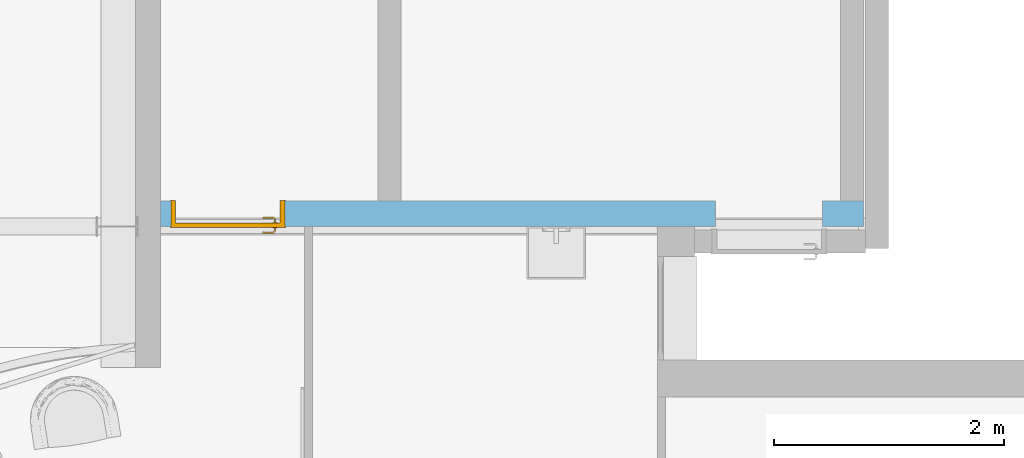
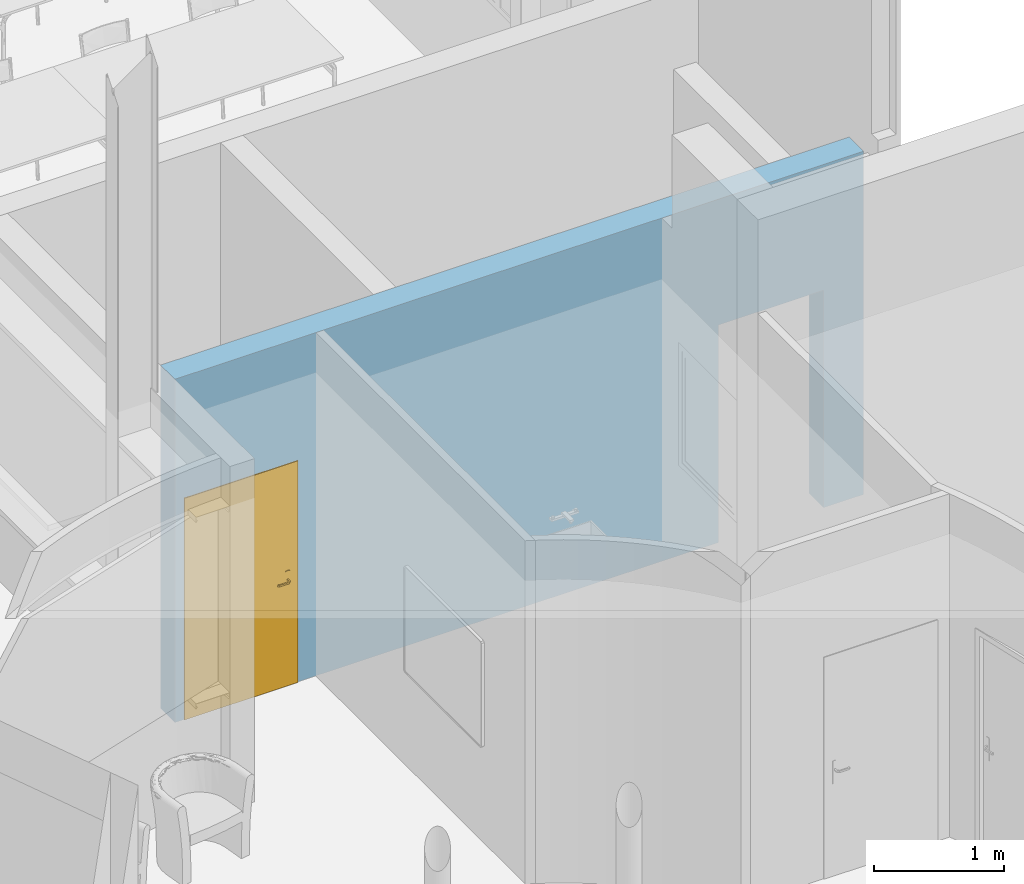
# One storey, part 89 of 137: 1 door, 2 openings, plus 1 element that does not belong to this part.
"""IFC2X3 building model written with IfcOpenShell, lengths in centimetres."""

from ifc_helpers import new_model, entity, si_unit, converted_unit, derived_unit, direction, frame, frame_2d, origin, place, context, subcontext, project, spatial, polyline, rectangle, extrude, clip, bounded_halfspace, faceted_brep, source, transform, mapped, material, material_list, layer, layer_set, layer_usage, type_object, type_shapes, element, fill, save


model = new_model("IFC2X3")

# Units and contexts
model_context = context("Model", 3, precision=0.001, world=origin(), true_north=direction((6.12303176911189e-17, 1.0)))
body_context = subcontext(model_context, "Body", "Model", "MODEL_VIEW")
ifc_project = project(units=[si_unit("LENGTHUNIT", "METRE", prefix="CENTI"), si_unit("AREAUNIT", "SQUARE_METRE"), si_unit("VOLUMEUNIT", "CUBIC_METRE"), converted_unit("PLANEANGLEUNIT", "DEGREE", entity("IfcRatioMeasure", 0.0174532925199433), si_unit("PLANEANGLEUNIT", "RADIAN"), dimensions=[0, 0, 0, 0, 0, 0, 0]), si_unit("MASSUNIT", "GRAM", prefix="KILO"), si_unit("TIMEUNIT", "SECOND"), si_unit("FREQUENCYUNIT", "HERTZ"), si_unit("THERMODYNAMICTEMPERATUREUNIT", "DEGREE_CELSIUS"), derived_unit("THERMALTRANSMITTANCEUNIT", [(si_unit("MASSUNIT", "GRAM", prefix="KILO"), 1), (si_unit("THERMODYNAMICTEMPERATUREUNIT", "KELVIN"), -1), (si_unit("TIMEUNIT", "SECOND"), -3)]), derived_unit("VOLUMETRICFLOWRATEUNIT", [(si_unit("LENGTHUNIT", "METRE"), 3), (si_unit("TIMEUNIT", "SECOND"), -1)]), si_unit("ELECTRICCURRENTUNIT", "AMPERE"), si_unit("ELECTRICVOLTAGEUNIT", "VOLT"), si_unit("POWERUNIT", "WATT"), si_unit("FORCEUNIT", "NEWTON", prefix="KILO"), si_unit("ILLUMINANCEUNIT", "LUX"), si_unit("LUMINOUSFLUXUNIT", "LUMEN"), si_unit("LUMINOUSINTENSITYUNIT", "CANDELA"), derived_unit("USERDEFINED", [(si_unit("MASSUNIT", "GRAM", prefix="KILO"), -1), (si_unit("LENGTHUNIT", "METRE"), -2), (si_unit("TIMEUNIT", "SECOND"), 3), (si_unit("LUMINOUSFLUXUNIT", "LUMEN"), 1)]), derived_unit("LINEARVELOCITYUNIT", [(si_unit("LENGTHUNIT", "METRE"), 1), (si_unit("TIMEUNIT", "SECOND"), -1)]), si_unit("PRESSUREUNIT", "PASCAL"), derived_unit("USERDEFINED", [(si_unit("LENGTHUNIT", "METRE"), -2), (si_unit("MASSUNIT", "GRAM", prefix="KILO"), 1), (si_unit("TIMEUNIT", "SECOND"), -2)])], contexts=[model_context])

# Site, building, storey
site_placement = place(None, frame((8.62739174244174, -249.285249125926, 0.0)))
site = spatial("IfcSite", under=ifc_project, at=site_placement, Name="Default", CompositionType="ELEMENT")
building_placement = place(site_placement, origin())
building = spatial("IfcBuilding", under=site, at=building_placement, CompositionType="ELEMENT")
storey_placement = place(building_placement, origin())
storey = spatial("IfcBuildingStorey", under=building, at=storey_placement, Name="RDC", CompositionType="ELEMENT", Elevation=-8.82465566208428e-11)

# Wall, openings, door
ifc_material_1 = material(Name="Plâtre")
ifc_layer_1 = layer(ifc_material_1, 2.0)
ifc_material_2 = material(Name="Maçonnerie")
ifc_layer_2 = layer(ifc_material_2, 20.0)
ifc_layer_set = layer_set([ifc_layer_1, ifc_layer_2], Name="Mur de base:PLA 2 + PAR 20")
ifc_layer_usage = layer_usage(ifc_layer_set, "AXIS2", "NEGATIVE", 11.0)
wall_type = type_object("IfcWallType", Name="Mur de base:PLA 2 + PAR 20", PredefinedType="STANDARD", material=ifc_layer_set)
wall_placement = place(storey_placement, frame((3660.90482780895, 1372.98020807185, 0.0), z_axis=(0.0, 0.0, 1.0), x_axis=(-1.0, 0.0, 0.0)))
wall = element("IfcWallStandardCase", 1, at=wall_placement, inside=storey, type_object=wall_type, material=ifc_layer_usage, Name="Mur de base:PLA 2 + PAR 20", ObjectType="Mur de base:PLA 2 + PAR 20", context=body_context, shape_type="Clipping", body=[
    clip(extrude(rectangle(XDim=611.000000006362, YDim=22.0000000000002, at=frame_2d((305.500000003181, 1.95399252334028e-14), x_axis=(-1.0, 0.0))), origin(), (0.0, 0.0, 1.0), 322.000000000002), bounded_halfspace(frame((0.0, -11.0, 322.0), z_axis=(0.0, 0.0, -1.0), x_axis=(1.0, 0.0, 0.0)), True, frame((0.0, -11.0, 322.0)), polyline([(0.0, 0.0), (402.0, 0.0), (422.0, 0.0), (611.0, 0.0), (611.0, 22.0), (179.0, 22.0), (147.0, 22.0), (0.0, 22.0), (0.0, 0.0)]))),
])
opening_1_placement = place(wall_placement, origin())
element("IfcOpeningElement", 2, at=opening_1_placement, cuts=wall, Name="Mur de base:PLA 2 + PAR 20", ObjectType="Opening", context=body_context, shape_type="SweptSolid", body=[
    extrude(rectangle(XDim=204.000000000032, YDim=93.0000000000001, at=frame_2d((0.0, -2.16715534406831e-13), x_axis=(1.0, 0.0))), frame((82.0, -11.0, 102.0), z_axis=(0.0, 1.0, 0.0), x_axis=(0.0, 0.0, -1.0)), (0.0, 0.0, 1.0), 22.0000000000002),
])
opening_2_placement = place(wall_placement, frame((502.999246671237, -11.0, 0.0)))
opening_2 = element("IfcOpeningElement", 3, at=opening_2_placement, cuts=wall, Name="Simple(R)_bois_Existant_mu:93 x 204 cm:1", ObjectType="Opening", context=body_context, shape_type="SweptSolid", body=[
    extrude(rectangle(XDim=206.999999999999, YDim=98.9999999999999, at=frame_2d((103.499999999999, 49.4999999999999), x_axis=(1.0, 0.0))), frame((0.0, 0.0, 0.0), z_axis=(0.0, 1.0, 0.0), x_axis=(0.0, 0.0, 1.0)), (0.0, 0.0, 1.0), 22.0),
])
ifc_material_3 = material(Name="Porte - Poignée")
ifc_material_4 = material(Name="Porte - Cadre")
ifc_material_5 = material(Name="Porte - Panneau")
ifc_material_list_1 = material_list([ifc_material_3, ifc_material_4, ifc_material_5])
ifc_material_list_2 = material_list([ifc_material_3, ifc_material_4, ifc_material_5])
door_style = type_object("IfcDoorStyle", Name="93 x 204 cm", ConstructionType="NOTDEFINED", OperationType="SINGLE_SWING_LEFT", ParameterTakesPrecedence=False, Sizeable=False, material=ifc_material_list_2)
shared_shape = source(origin(), body_context, "Body", "Brep", [
    faceted_brep([(91.7025298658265, 3.69999999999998, 100.778044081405), (91.2974701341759, 3.69999999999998, 100.778044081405), (90.8999999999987, 3.69999999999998, 100.699999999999), (90.9000000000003, 3.69999999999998, 99.3000000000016), (91.2974701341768, 3.69999999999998, 99.2219559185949), (91.7025298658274, 3.69999999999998, 99.2219559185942), (92.1000000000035, 3.69999999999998, 99.2999999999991), (92.1000000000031, 3.69999999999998, 100.699999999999), (90.8999999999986, 5.94852045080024, 100.699999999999), (90.8999999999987, 5.94852045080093, 99.3000000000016), (91.2974701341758, 6.1131579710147, 100.778044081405), (91.7025298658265, 6.2809392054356, 100.778044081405), (90.0838906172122, 7.89957845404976, 100.778044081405), (89.9161093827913, 7.49451872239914, 100.778044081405), (81.5793122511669, 7.49451872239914, 100.778044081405), (81.411531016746, 7.89957845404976, 100.778044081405), (80.6451046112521, 7.13315204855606, 100.778044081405), (80.9315250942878, 6.84673156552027, 100.778044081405), (92.1000000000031, 6.44557672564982, 100.699999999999), (92.1000000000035, 6.44557672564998, 99.2999999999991), (91.7025298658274, 6.28093920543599, 99.2219559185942), (91.2974701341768, 6.11315797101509, 99.2219559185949), (89.9161093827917, 7.49451872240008, 99.2219559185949), (90.0838906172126, 7.8995784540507, 99.2219559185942), (81.4115310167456, 7.8995784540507, 99.2219559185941), (81.5793122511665, 7.49451872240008, 99.2219559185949), (80.9315250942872, 6.84673156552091, 99.2219559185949), (80.6451046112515, 7.1331520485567, 99.2219559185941), (89.7514718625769, 7.09704858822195, 100.699999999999), (89.7514718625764, 7.09704858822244, 99.3000000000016), (90.2485281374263, 8.29704858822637, 100.699999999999), (90.2485281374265, 8.29704858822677, 99.2999999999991), (85.7477108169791, 7.09704858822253, 100.699999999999), (81.7439497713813, 7.09704858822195, 100.699999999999), (81.7439497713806, 7.09704858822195, 99.3000000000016), (85.7477108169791, 7.09704858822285, 99.3000000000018), (85.7477108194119, 7.71249275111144, 100.787811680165), (85.2399422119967, 8.29704858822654, 100.699999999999), (81.2468934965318, 8.29704858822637, 100.699999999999), (86.2554791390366, 8.29704858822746, 99.2999999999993), (81.2468934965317, 8.29704858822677, 99.2999999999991), (85.7477107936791, 7.71249274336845, 99.2121883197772), (80.3640507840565, 7.41420587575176, 100.699999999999), (80.364050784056, 7.41420587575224, 99.2999999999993), (81.2125789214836, 6.56567773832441, 99.3000000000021), (81.2125789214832, 6.56567773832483, 100.699999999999)], [[[0, 1, 2, 3, 4, 5, 6, 7]], [[8, 9, 3, 2]], [[1, 10, 8, 2]], [[1, 0, 11, 12, 13, 10]], [[14, 15, 16, 17]], [[7, 18, 11, 0]], [[18, 7, 6, 19]], [[6, 5, 20, 19]], [[5, 4, 21, 22, 23, 20]], [[24, 25, 26, 27]], [[4, 3, 9, 21]], [[28, 29, 9, 8]], [[8, 10, 13, 28]], [[18, 30, 12, 11]], [[31, 30, 18, 19]], [[19, 20, 23, 31]], [[21, 9, 29, 22]], [[29, 28, 32, 33, 34, 35]], [[36, 32, 13]], [[37, 38, 15]], [[37, 12, 30]], [[36, 12, 37]], [[14, 32, 36]], [[36, 15, 14]], [[28, 13, 32]], [[32, 14, 33]], [[12, 36, 13]], [[15, 36, 37]], [[30, 31, 39, 40, 38, 37]], [[23, 41, 39]], [[24, 39, 41]], [[39, 31, 23]], [[39, 24, 40]], [[22, 35, 41]], [[41, 23, 22]], [[41, 35, 25]], [[35, 22, 29]], [[34, 25, 35]], [[24, 41, 25]], [[17, 16, 42, 43, 27, 26, 44, 45]], [[45, 44, 34, 33]], [[33, 14, 17, 45]], [[15, 38, 42, 16]], [[43, 42, 38, 40]], [[24, 27, 43, 40]], [[34, 44, 26, 25]]]),
    faceted_brep([(91.2974701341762, -1.30000000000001, 100.778044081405), (91.7025298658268, -1.30000000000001, 100.778044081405), (92.1000000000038, -1.30000000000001, 100.699999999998), (92.1000000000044, -1.30000000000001, 99.2999999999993), (91.7025298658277, -1.30000000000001, 99.2219559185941), (91.297470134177, -1.30000000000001, 99.2219559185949), (90.899999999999, -1.30000000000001, 99.3000000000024), (90.8999999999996, -1.30000000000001, 100.699999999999), (91.7025298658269, -3.90045754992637, 100.778044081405), (92.100000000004, -4.06509507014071, 100.699999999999), (91.2974701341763, -3.73267631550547, 100.778044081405), (89.9298602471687, -5.10028620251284, 100.778044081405), (90.0976414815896, -5.50534593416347, 100.778044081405), (81.4142453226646, -5.50534593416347, 100.778044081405), (81.5820265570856, -5.10028620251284, 100.778044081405), (80.9342394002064, -4.4524990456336, 100.778044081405), (80.6478189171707, -4.73891952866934, 100.778044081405), (90.8999999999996, -3.56803879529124, 100.699999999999), (90.899999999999, -3.56803879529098, 99.3000000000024), (91.297470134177, -3.7326763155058, 99.2219559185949), (91.7025298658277, -3.9004575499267, 99.2219559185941), (90.09764148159, -5.50534593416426, 99.2219559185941), (89.9298602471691, -5.10028620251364, 99.2219559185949), (81.5820265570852, -5.10028620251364, 99.2219559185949), (81.4142453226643, -5.50534593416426, 99.2219559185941), (80.6478189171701, -4.73891952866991, 99.2219559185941), (80.9342394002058, -4.45249904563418, 99.2219559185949), (92.1000000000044, -4.06509507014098, 99.2999999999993), (90.2622790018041, -5.9028160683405, 100.699999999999), (89.7652227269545, -4.70281606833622, 100.699999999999), (89.7652227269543, -4.70281606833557, 99.3000000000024), (90.2622790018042, -5.90281606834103, 99.2999999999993), (85.7559433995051, -5.31828027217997, 100.787811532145), (86.2692302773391, -5.90281606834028, 100.699999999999), (81.2496078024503, -5.90281606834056, 100.699999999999), (85.755943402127, -4.70281606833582, 100.699999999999), (81.7466640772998, -4.70281606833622, 100.699999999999), (85.7559436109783, -4.70281606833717, 99.3000000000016), (81.7466640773, -4.70281606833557, 99.3000000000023), (85.7559434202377, -5.31828027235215, 99.2121884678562), (85.2426572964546, -5.90281606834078, 99.2999999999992), (81.24960780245, -5.90281606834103, 99.2999999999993), (81.2152932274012, -4.17144521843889, 99.3000000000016), (80.366765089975, -5.01997335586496, 99.2999999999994), (80.3667650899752, -5.01997335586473, 100.699999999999), (81.2152932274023, -4.17144521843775, 100.699999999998)], [[[0, 1, 2, 3, 4, 5, 6, 7]], [[2, 1, 8, 9]], [[1, 0, 10, 11, 12, 8]], [[13, 14, 15, 16]], [[0, 7, 17, 10]], [[18, 17, 7, 6]], [[5, 19, 18, 6]], [[5, 4, 20, 21, 22, 19]], [[23, 24, 25, 26]], [[3, 27, 20, 4]], [[9, 27, 3, 2]], [[9, 8, 12, 28]], [[10, 17, 29, 11]], [[30, 29, 17, 18]], [[18, 19, 22, 30]], [[20, 27, 31, 21]], [[28, 31, 27, 9]], [[12, 32, 33]], [[13, 33, 32]], [[33, 28, 12]], [[33, 13, 34]], [[11, 35, 32]], [[32, 12, 11]], [[32, 35, 14]], [[35, 11, 29]], [[36, 14, 35]], [[13, 32, 14]], [[29, 30, 37, 38, 36, 35]], [[39, 37, 22]], [[40, 41, 24]], [[40, 21, 31]], [[39, 21, 40]], [[23, 37, 39]], [[39, 24, 23]], [[30, 22, 37]], [[37, 23, 38]], [[21, 39, 22]], [[24, 39, 40]], [[31, 28, 33, 34, 41, 40]], [[42, 26, 25, 43, 44, 16, 15, 45]], [[13, 16, 44, 34]], [[36, 45, 15, 14]], [[42, 45, 36, 38]], [[38, 23, 26, 42]], [[24, 41, 43, 25]], [[44, 43, 41, 34]]]),
    faceted_brep([(91.5000000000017, 3.19999999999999, 86.4641016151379), (92.5352761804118, 3.19999999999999, 86.6003983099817), (93.5000000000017, 3.19999999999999, 87.0), (93.5000000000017, 3.19999999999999, 108.0), (92.5352761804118, 3.19999999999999, 108.399601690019), (91.5000000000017, 3.19999999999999, 108.535898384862), (90.4647238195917, 3.19999999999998, 108.399601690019), (89.5000000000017, 3.19999999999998, 108.0), (89.5000000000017, 3.19999999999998, 87.0), (90.4647238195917, 3.19999999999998, 86.6003983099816), (91.5000000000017, 3.69999999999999, 108.535898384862), (92.5352761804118, 3.69999999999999, 108.399601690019), (93.5000000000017, 3.69999999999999, 108.0), (93.5000000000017, 3.69999999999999, 87.0), (92.5352761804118, 3.69999999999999, 86.6003983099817), (91.5000000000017, 3.69999999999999, 86.4641016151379), (90.4647238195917, 3.69999999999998, 86.6003983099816), (89.5000000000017, 3.69999999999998, 87.0), (89.5000000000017, 3.69999999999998, 108.0), (90.4647238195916, 3.69999999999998, 108.399601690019)], [[[0, 1, 2, 3, 4, 5, 6, 7, 8, 9]], [[10, 11, 12, 13, 14, 15, 16, 17, 18, 19]], [[6, 19, 18, 7]], [[5, 10, 19, 6]], [[4, 11, 10, 5]], [[4, 3, 12, 11]], [[12, 3, 2, 13]], [[1, 14, 13, 2]], [[0, 15, 14, 1]], [[9, 16, 15, 0]], [[9, 8, 17, 16]], [[17, 8, 7, 18]]]),
    faceted_brep([(91.5000000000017, -1.30000000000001, 86.4641016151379), (92.5352761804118, -1.30000000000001, 86.6003983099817), (93.5000000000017, -1.30000000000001, 87.0), (93.5000000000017, -1.30000000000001, 108.0), (92.5352761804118, -1.30000000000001, 108.399601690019), (91.5000000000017, -1.30000000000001, 108.535898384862), (90.4647238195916, -1.30000000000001, 108.399601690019), (89.5000000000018, -1.30000000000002, 108.0), (89.5000000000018, -1.30000000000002, 87.0), (90.4647238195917, -1.30000000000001, 86.6003983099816), (93.5000000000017, -0.800000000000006, 108.0), (93.5000000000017, -0.800000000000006, 87.0), (92.5352761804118, -0.800000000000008, 86.6003983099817), (91.5000000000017, -0.800000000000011, 86.4641016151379), (90.4647238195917, -0.800000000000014, 86.6003983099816), (89.5000000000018, -0.800000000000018, 87.0), (89.5000000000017, -0.800000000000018, 108.0), (90.4647238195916, -0.800000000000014, 108.399601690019), (91.5000000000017, -0.800000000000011, 108.535898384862), (92.5352761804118, -0.800000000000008, 108.399601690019)], [[[0, 1, 2, 3, 4, 5, 6, 7, 8, 9]], [[10, 11, 12, 13, 14, 15, 16, 17, 18, 19]], [[1, 12, 11, 2]], [[0, 13, 12, 1]], [[9, 14, 13, 0]], [[9, 8, 15, 14]], [[15, 8, 7, 16]], [[6, 17, 16, 7]], [[5, 18, 17, 6]], [[4, 19, 18, 5]], [[4, 3, 10, 19]], [[10, 3, 2, 11]]]),
    faceted_brep([(100.0, 0.0, 0.0), (101.0, 0.0, 0.0), (101.0, -0.799999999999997, 0.0), (97.0, -0.799999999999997, 0.0), (97.0, 3.2, 0.0), (96.0, 3.2, 0.0), (96.0, 22.8000000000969, 0.0), (101.0, 22.8000000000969, 0.0), (101.0, 22.0, 0.0), (100.0, 22.0, 0.0), (100.0, 22.0, 207.0), (100.0, 0.0, 207.0), (101.0, 22.0, 208.0), (0.0, 22.0, 208.0), (0.0, 22.0, 0.0), (1.0, 22.0, 0.0), (1.0, 22.0, 207.0), (101.0, 22.8000000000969, 208.0), (96.0, 22.8000000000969, 203.0), (5.0, 22.8000000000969, 203.0), (5.0, 22.8000000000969, 0.0), (0.0, 22.8000000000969, 0.0), (0.0, 22.8000000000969, 208.0), (96.0, 3.2, 203.0), (97.0, 3.2, 204.0), (4.0, 3.2, 204.0), (4.0, 3.2, 0.0), (5.0, 3.2, 0.0), (5.0, 3.2, 203.0), (97.0, -0.799999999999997, 204.0), (101.0, -0.799999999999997, 208.0), (0.0, -0.799999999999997, 208.0), (0.0, -0.799999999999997, 0.0), (4.0, -0.799999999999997, 0.0), (4.0, -0.799999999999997, 204.0), (101.0, 0.0, 208.0), (1.0, 0.0, 207.0), (1.0, 0.0, 0.0), (0.0, 0.0, 0.0), (0.0, 0.0, 208.0)], [[[0, 1, 2, 3, 4, 5, 6, 7, 8, 9]], [[9, 10, 11, 0]], [[8, 12, 13, 14, 15, 16, 10, 9]], [[7, 17, 12, 8]], [[6, 18, 19, 20, 21, 22, 17, 7]], [[5, 23, 18, 6]], [[4, 24, 25, 26, 27, 28, 23, 5]], [[3, 29, 24, 4]], [[2, 30, 31, 32, 33, 34, 29, 3]], [[1, 35, 30, 2]], [[0, 11, 36, 37, 38, 39, 35, 1]], [[16, 15, 37, 36]], [[37, 15, 14, 21, 20, 27, 26, 33, 32, 38]], [[22, 21, 14, 13]], [[28, 27, 20, 19]], [[34, 33, 26, 25]], [[39, 38, 32, 31]], [[10, 16, 36, 11]], [[17, 22, 13, 12]], [[23, 28, 19, 18]], [[29, 34, 25, 24]], [[35, 39, 31, 30]]]),
    faceted_brep([(97.0, -0.799999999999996, 204.0), (4.0, -0.799999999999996, 204.0), (4.0, -0.799999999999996, 0.0), (97.0, -0.799999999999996, 0.0), (97.0, 3.2, 204.0), (97.0, 3.2, 0.0), (4.0, 3.2, 0.0), (4.0, 3.2, 204.0)], [[[0, 1, 2, 3]], [[4, 5, 6, 7]], [[3, 5, 4, 0]], [[2, 6, 5, 3]], [[1, 7, 6, 2]], [[0, 4, 7, 1]]]),
])
type_shapes(door_style, [shared_shape])
door_placement = place(opening_2_placement, frame((100.0, 22.0, 0.0), z_axis=(0.0, 0.0, 1.0), x_axis=(-1.0, 0.0, 0.0)))
door = element("IfcDoor", 4, at=door_placement, inside=storey, type_object=door_style, material=ifc_material_list_1, Name="Simple(R)_bois_Existant_mu:93 x 204 cm", ObjectType="93 x 204 cm", OverallHeight=206.999999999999, OverallWidth=99.0, context=body_context, shape_type="MappedRepresentation", body=[
    mapped(shared_shape, transform((0.0, 0.0, 0.0), scale=1.0)),
])
fill(opening_2, door)

save(model, "model.ifc")
